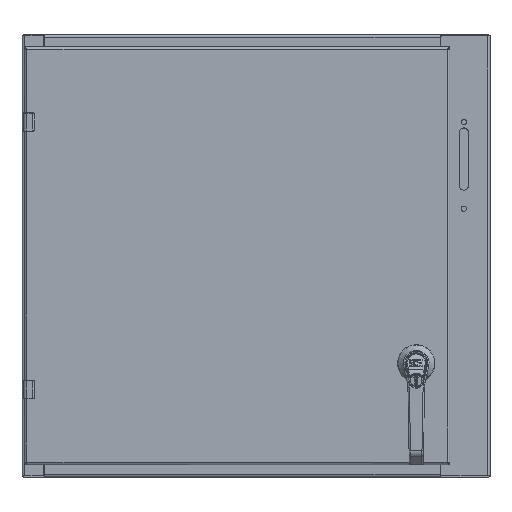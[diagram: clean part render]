
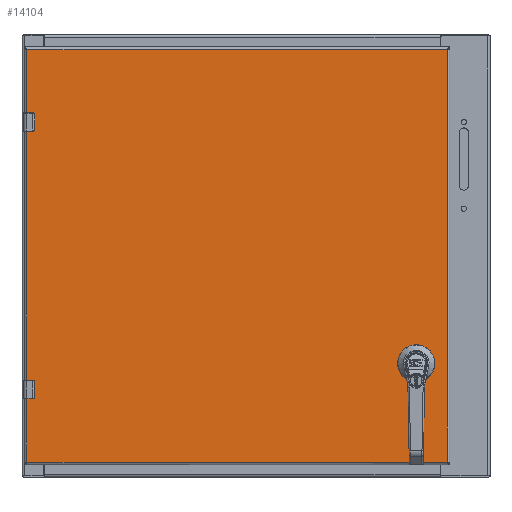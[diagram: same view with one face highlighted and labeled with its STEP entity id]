
A CAD part, top view. The second image highlights one B-rep face of the part: STEP entity #14104.
In plain terms, the highlighted planar face has unit normal (0, 0, 1).
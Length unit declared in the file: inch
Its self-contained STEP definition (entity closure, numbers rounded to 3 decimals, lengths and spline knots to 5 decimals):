
#10913=CARTESIAN_POINT('',(9.7125,-6.915,0.));
#10914=DIRECTION('',(0.,0.,1.));
#10915=DIRECTION('',(-1.,0.,0.));
#10916=AXIS2_PLACEMENT_3D('',#10913,#10914,#10915);
#10921=CARTESIAN_POINT('',(9.7125,-6.915,0.));
#10922=DIRECTION('',(0.,0.,1.));
#10923=DIRECTION('',(1.,0.,0.));
#10924=AXIS2_PLACEMENT_3D('',#10921,#10922,#10923);
#10929=DIRECTION('',(1.,0.,0.));
#10930=VECTOR('',#10929,0.39715);
#10931=CARTESIAN_POINT('',(9.51392,-5.429,0.));
#10932=LINE('',#10931,#10930);
#10936=CARTESIAN_POINT('',(9.7125,-5.825,0.));
#10937=DIRECTION('',(0.,0.,1.));
#10938=DIRECTION('',(-0.448,0.894,0.));
#10939=AXIS2_PLACEMENT_3D('',#10936,#10937,#10938);
#10944=DIRECTION('',(0.,1.,0.));
#10945=VECTOR('',#10944,0.39715);
#10946=CARTESIAN_POINT('',(9.3165,-6.02358,0.));
#10947=LINE('',#10946,#10945);
#10951=CARTESIAN_POINT('',(9.7125,-5.825,0.));
#10952=DIRECTION('',(0.,0.,1.));
#10953=DIRECTION('',(-0.894,-0.448,0.));
#10954=AXIS2_PLACEMENT_3D('',#10951,#10952,#10953);
#10959=DIRECTION('',(-1.,0.,0.));
#10960=VECTOR('',#10959,0.39715);
#10961=CARTESIAN_POINT('',(9.91108,-6.221,0.));
#10962=LINE('',#10961,#10960);
#10966=CARTESIAN_POINT('',(9.7125,-5.825,0.));
#10967=DIRECTION('',(0.,0.,1.));
#10968=DIRECTION('',(0.448,-0.894,0.));
#10969=AXIS2_PLACEMENT_3D('',#10966,#10967,#10968);
#10974=DIRECTION('',(0.,-1.,0.));
#10975=VECTOR('',#10974,0.39715);
#10976=CARTESIAN_POINT('',(10.1085,-5.62642,0.));
#10977=LINE('',#10976,#10975);
#10981=CARTESIAN_POINT('',(9.7125,-5.825,0.));
#10982=DIRECTION('',(0.,0.,1.));
#10983=DIRECTION('',(0.894,0.448,0.));
#10984=AXIS2_PLACEMENT_3D('',#10981,#10982,#10983);
#10989=DIRECTION('',(1.,0.,0.));
#10990=VECTOR('',#10989,0.339);
#10991=CARTESIAN_POINT('',(-11.3925,-7.595,0.));
#10992=LINE('',#10991,#10990);
#10996=DIRECTION('',(0.,1.,0.));
#10997=VECTOR('',#10996,0.63);
#10998=CARTESIAN_POINT('',(-11.0235,-7.565,0.));
#10999=LINE('',#10998,#10997);
#11003=DIRECTION('',(1.,0.,0.));
#11004=VECTOR('',#11003,0.339);
#11005=CARTESIAN_POINT('',(-11.3925,-6.905,0.));
#11006=LINE('',#11005,#11004);
#11010=DIRECTION('',(1.,0.,0.));
#11011=VECTOR('',#11010,0.339);
#11012=CARTESIAN_POINT('',(-11.3925,6.905,0.));
#11013=LINE('',#11012,#11011);
#11017=DIRECTION('',(0.,1.,0.));
#11018=VECTOR('',#11017,0.63);
#11019=CARTESIAN_POINT('',(-11.0235,6.935,0.));
#11020=LINE('',#11019,#11018);
#11024=DIRECTION('',(1.,0.,0.));
#11025=VECTOR('',#11024,0.339);
#11026=CARTESIAN_POINT('',(-11.3925,7.595,0.));
#11027=LINE('',#11026,#11025);
#11562=CARTESIAN_POINT('',(-11.0535,-6.935,0.));
#11563=DIRECTION('',(0.,0.,-1.));
#11564=DIRECTION('',(0.,1.,0.));
#11565=AXIS2_PLACEMENT_3D('',#11562,#11563,#11564);
#11592=CARTESIAN_POINT('',(-11.0535,-7.565,0.));
#11593=DIRECTION('',(0.,0.,-1.));
#11594=DIRECTION('',(1.,0.,0.));
#11595=AXIS2_PLACEMENT_3D('',#11592,#11593,#11594);
#11645=DIRECTION('',(0.,1.,0.));
#11646=VECTOR('',#11645,13.81);
#11647=CARTESIAN_POINT('',(-11.3925,-6.905,0.));
#11648=LINE('',#11647,#11646);
#11693=DIRECTION('',(0.,1.,0.));
#11694=VECTOR('',#11693,3.585);
#11695=CARTESIAN_POINT('',(-11.3925,7.595,0.));
#11696=LINE('',#11695,#11694);
#11771=DIRECTION('',(0.,1.,0.));
#11772=VECTOR('',#11771,3.585);
#11773=CARTESIAN_POINT('',(-11.3925,-11.18,0.));
#11774=LINE('',#11773,#11772);
#12406=CARTESIAN_POINT('',(-11.0535,6.935,0.));
#12407=DIRECTION('',(0.,0.,-1.));
#12408=DIRECTION('',(1.,0.,0.));
#12409=AXIS2_PLACEMENT_3D('',#12406,#12407,#12408);
#12436=CARTESIAN_POINT('',(-11.0535,7.565,0.));
#12437=DIRECTION('',(0.,0.,-1.));
#12438=DIRECTION('',(0.,1.,0.));
#12439=AXIS2_PLACEMENT_3D('',#12436,#12437,#12438);
#13221=DIRECTION('',(-1.,0.,0.));
#13222=VECTOR('',#13221,22.785);
#13223=CARTESIAN_POINT('',(11.3925,-11.18,0.));
#13224=LINE('',#13223,#13222);
#13313=DIRECTION('',(0.,-1.,0.));
#13314=VECTOR('',#13313,22.36);
#13315=CARTESIAN_POINT('',(11.3925,11.18,0.));
#13316=LINE('',#13315,#13314);
#13523=DIRECTION('',(1.,0.,0.));
#13524=VECTOR('',#13523,22.785);
#13525=CARTESIAN_POINT('',(-11.3925,11.18,0.));
#13526=LINE('',#13525,#13524);
#13657=CARTESIAN_POINT('',(11.3925,11.18,0.));
#13658=CARTESIAN_POINT('',(11.3925,-11.18,0.));
#13659=VERTEX_POINT('',#13657);
#13660=VERTEX_POINT('',#13658);
#13785=CARTESIAN_POINT('',(9.5875,-6.915,0.));
#13786=CARTESIAN_POINT('',(9.8375,-6.915,0.));
#13787=VERTEX_POINT('',#13785);
#13788=VERTEX_POINT('',#13786);
#13789=CARTESIAN_POINT('',(9.51392,-5.429,0.));
#13790=CARTESIAN_POINT('',(9.91108,-5.429,0.));
#13791=VERTEX_POINT('',#13789);
#13792=VERTEX_POINT('',#13790);
#13793=CARTESIAN_POINT('',(10.1085,-5.62642,0.));
#13794=VERTEX_POINT('',#13793);
#13795=CARTESIAN_POINT('',(10.1085,-6.02358,0.));
#13796=VERTEX_POINT('',#13795);
#13797=CARTESIAN_POINT('',(9.91108,-6.221,0.));
#13798=VERTEX_POINT('',#13797);
#13799=CARTESIAN_POINT('',(9.51392,-6.221,0.));
#13800=VERTEX_POINT('',#13799);
#13801=CARTESIAN_POINT('',(9.3165,-6.02358,0.));
#13802=VERTEX_POINT('',#13801);
#13803=CARTESIAN_POINT('',(9.3165,-5.62642,0.));
#13804=VERTEX_POINT('',#13803);
#13834=CARTESIAN_POINT('',(-11.3925,11.18,0.));
#13836=VERTEX_POINT('',#13834);
#13841=CARTESIAN_POINT('',(-11.3925,-11.18,0.));
#13843=VERTEX_POINT('',#13841);
#13945=CARTESIAN_POINT('',(-11.3925,7.595,0.));
#13947=VERTEX_POINT('',#13945);
#13949=CARTESIAN_POINT('',(-11.3925,6.905,0.));
#13951=VERTEX_POINT('',#13949);
#13961=CARTESIAN_POINT('',(-11.3925,-6.905,0.));
#13963=VERTEX_POINT('',#13961);
#13965=CARTESIAN_POINT('',(-11.3925,-7.595,0.));
#13967=VERTEX_POINT('',#13965);
#13977=CARTESIAN_POINT('',(-11.0535,7.595,0.));
#13979=VERTEX_POINT('',#13977);
#13981=CARTESIAN_POINT('',(-11.0235,7.565,0.));
#13983=VERTEX_POINT('',#13981);
#13985=CARTESIAN_POINT('',(-11.0235,6.935,0.));
#13987=VERTEX_POINT('',#13985);
#13989=CARTESIAN_POINT('',(-11.0535,6.905,0.));
#13991=VERTEX_POINT('',#13989);
#14009=CARTESIAN_POINT('',(-11.0535,-6.905,0.));
#14011=VERTEX_POINT('',#14009);
#14013=CARTESIAN_POINT('',(-11.0235,-6.935,0.));
#14015=VERTEX_POINT('',#14013);
#14017=CARTESIAN_POINT('',(-11.0235,-7.565,0.));
#14019=VERTEX_POINT('',#14017);
#14021=CARTESIAN_POINT('',(-11.0535,-7.595,0.));
#14023=VERTEX_POINT('',#14021);
#14041=CARTESIAN_POINT('',(0.,0.,0.));
#14042=DIRECTION('',(0.,0.,-1.));
#14043=DIRECTION('',(1.,0.,0.));
#14044=AXIS2_PLACEMENT_3D('',#14041,#14042,#14043);
#14045=PLANE('',#14044);
#14047=ORIENTED_EDGE('',*,*,#14046,.T.);
#14049=ORIENTED_EDGE('',*,*,#14048,.T.);
#14051=ORIENTED_EDGE('',*,*,#14050,.T.);
#14053=ORIENTED_EDGE('',*,*,#14052,.F.);
#14055=ORIENTED_EDGE('',*,*,#14054,.T.);
#14057=ORIENTED_EDGE('',*,*,#14056,.F.);
#14059=ORIENTED_EDGE('',*,*,#14058,.F.);
#14061=ORIENTED_EDGE('',*,*,#14060,.T.);
#14063=ORIENTED_EDGE('',*,*,#14062,.T.);
#14065=ORIENTED_EDGE('',*,*,#14064,.F.);
#14067=ORIENTED_EDGE('',*,*,#14066,.T.);
#14069=ORIENTED_EDGE('',*,*,#14068,.F.);
#14071=ORIENTED_EDGE('',*,*,#14070,.F.);
#14073=ORIENTED_EDGE('',*,*,#14072,.T.);
#14075=ORIENTED_EDGE('',*,*,#14074,.T.);
#14077=ORIENTED_EDGE('',*,*,#14076,.T.);
#14078=EDGE_LOOP('',(#14047,#14049,#14051,#14053,#14055,#14057,#14059,#14061,
#14063,#14065,#14067,#14069,#14071,#14073,#14075,#14077));
#14079=FACE_OUTER_BOUND('',#14078,.F.);
#14081=ORIENTED_EDGE('',*,*,#14080,.F.);
#14083=ORIENTED_EDGE('',*,*,#14082,.T.);
#14085=ORIENTED_EDGE('',*,*,#14084,.F.);
#14087=ORIENTED_EDGE('',*,*,#14086,.T.);
#14089=ORIENTED_EDGE('',*,*,#14088,.F.);
#14091=ORIENTED_EDGE('',*,*,#14090,.T.);
#14093=ORIENTED_EDGE('',*,*,#14092,.F.);
#14095=ORIENTED_EDGE('',*,*,#14094,.T.);
#14096=EDGE_LOOP('',(#14081,#14083,#14085,#14087,#14089,#14091,#14093,#14095));
#14097=FACE_BOUND('',#14096,.F.);
#14099=ORIENTED_EDGE('',*,*,#14098,.T.);
#14101=ORIENTED_EDGE('',*,*,#14100,.T.);
#14102=EDGE_LOOP('',(#14099,#14101));
#14103=FACE_BOUND('',#14102,.F.);
#10917=CIRCLE('',#10916,0.125);
#10925=CIRCLE('',#10924,0.125);
#10940=CIRCLE('',#10939,0.443);
#10955=CIRCLE('',#10954,0.443);
#10970=CIRCLE('',#10969,0.443);
#10985=CIRCLE('',#10984,0.443);
#11566=CIRCLE('',#11565,0.03);
#11596=CIRCLE('',#11595,0.03);
#12410=CIRCLE('',#12409,0.03);
#12440=CIRCLE('',#12439,0.03);
#14046=EDGE_CURVE('',#13660,#13843,#13224,.T.);
#14048=EDGE_CURVE('',#13843,#13967,#11774,.T.);
#14050=EDGE_CURVE('',#13967,#14023,#10992,.T.);
#14052=EDGE_CURVE('',#14019,#14023,#11596,.T.);
#14054=EDGE_CURVE('',#14019,#14015,#10999,.T.);
#14056=EDGE_CURVE('',#14011,#14015,#11566,.T.);
#14058=EDGE_CURVE('',#13963,#14011,#11006,.T.);
#14060=EDGE_CURVE('',#13963,#13951,#11648,.T.);
#14062=EDGE_CURVE('',#13951,#13991,#11013,.T.);
#14064=EDGE_CURVE('',#13987,#13991,#12410,.T.);
#14066=EDGE_CURVE('',#13987,#13983,#11020,.T.);
#14068=EDGE_CURVE('',#13979,#13983,#12440,.T.);
#14070=EDGE_CURVE('',#13947,#13979,#11027,.T.);
#14072=EDGE_CURVE('',#13947,#13836,#11696,.T.);
#14074=EDGE_CURVE('',#13836,#13659,#13526,.T.);
#14076=EDGE_CURVE('',#13659,#13660,#13316,.T.);
#14080=EDGE_CURVE('',#13791,#13792,#10932,.T.);
#14082=EDGE_CURVE('',#13791,#13804,#10940,.T.);
#14084=EDGE_CURVE('',#13802,#13804,#10947,.T.);
#14086=EDGE_CURVE('',#13802,#13800,#10955,.T.);
#14088=EDGE_CURVE('',#13798,#13800,#10962,.T.);
#14090=EDGE_CURVE('',#13798,#13796,#10970,.T.);
#14092=EDGE_CURVE('',#13794,#13796,#10977,.T.);
#14094=EDGE_CURVE('',#13794,#13792,#10985,.T.);
#14098=EDGE_CURVE('',#13787,#13788,#10917,.T.);
#14100=EDGE_CURVE('',#13788,#13787,#10925,.T.);
#14104=ADVANCED_FACE('',(#14079,#14097,#14103),#14045,.F.);
